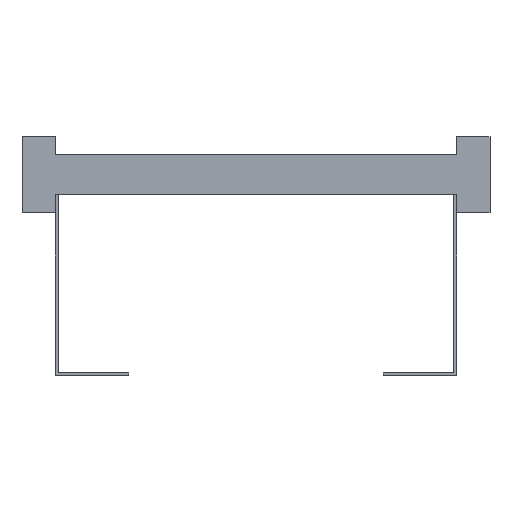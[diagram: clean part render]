
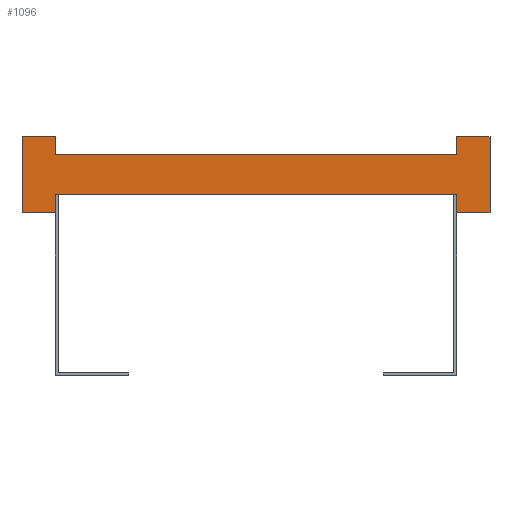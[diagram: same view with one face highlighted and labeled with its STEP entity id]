
A CAD part, front view. The second image highlights one B-rep face of the part: STEP entity #1096.
In plain terms, the highlighted planar face has unit normal (0, -1, 0).
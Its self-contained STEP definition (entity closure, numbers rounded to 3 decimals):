
#113=DIRECTION('',(0.,0.,1.));
#114=VECTOR('',#113,13.5);
#115=CARTESIAN_POINT('',(150.,0.,-28.5));
#116=LINE('',#115,#114);
#117=DIRECTION('',(0.,0.,-1.));
#118=VECTOR('',#117,13.5);
#119=CARTESIAN_POINT('',(-150.,0.,-15.));
#120=LINE('',#119,#118);
#121=DIRECTION('',(-1.,0.,0.));
#122=VECTOR('',#121,25.);
#123=CARTESIAN_POINT('',(-150.,0.,-28.5));
#124=LINE('',#123,#122);
#125=DIRECTION('',(0.,0.,1.));
#126=VECTOR('',#125,57.);
#127=CARTESIAN_POINT('',(-175.,0.,-28.5));
#128=LINE('',#127,#126);
#129=DIRECTION('',(1.,0.,0.));
#130=VECTOR('',#129,25.);
#131=CARTESIAN_POINT('',(-175.,0.,28.5));
#132=LINE('',#131,#130);
#133=DIRECTION('',(0.,0.,-1.));
#134=VECTOR('',#133,13.5);
#135=CARTESIAN_POINT('',(-150.,0.,28.5));
#136=LINE('',#135,#134);
#137=DIRECTION('',(0.,0.,1.));
#138=VECTOR('',#137,13.5);
#139=CARTESIAN_POINT('',(150.,0.,15.));
#140=LINE('',#139,#138);
#141=DIRECTION('',(1.,0.,0.));
#142=VECTOR('',#141,25.);
#143=CARTESIAN_POINT('',(150.,0.,28.5));
#144=LINE('',#143,#142);
#145=DIRECTION('',(0.,0.,-1.));
#146=VECTOR('',#145,57.);
#147=CARTESIAN_POINT('',(175.,0.,28.5));
#148=LINE('',#147,#146);
#149=DIRECTION('',(-1.,0.,0.));
#150=VECTOR('',#149,25.);
#151=CARTESIAN_POINT('',(175.,0.,-28.5));
#152=LINE('',#151,#150);
#817=DIRECTION('',(1.,0.,0.));
#818=VECTOR('',#817,300.);
#819=CARTESIAN_POINT('',(-150.,0.,-15.));
#820=LINE('',#819,#818);
#829=DIRECTION('',(1.,0.,0.));
#830=VECTOR('',#829,300.);
#831=CARTESIAN_POINT('',(-150.,0.,15.));
#832=LINE('',#831,#830);
#833=CARTESIAN_POINT('',(-175.,0.,28.5));
#834=CARTESIAN_POINT('',(-150.,0.,28.5));
#835=VERTEX_POINT('',#833);
#836=VERTEX_POINT('',#834);
#837=CARTESIAN_POINT('',(-150.,0.,-28.5));
#838=CARTESIAN_POINT('',(-175.,0.,-28.5));
#839=VERTEX_POINT('',#837);
#840=VERTEX_POINT('',#838);
#841=CARTESIAN_POINT('',(175.,0.,28.5));
#842=CARTESIAN_POINT('',(175.,0.,-28.5));
#843=VERTEX_POINT('',#841);
#844=VERTEX_POINT('',#842);
#845=CARTESIAN_POINT('',(150.,0.,-28.5));
#846=VERTEX_POINT('',#845);
#847=CARTESIAN_POINT('',(150.,0.,28.5));
#848=VERTEX_POINT('',#847);
#865=CARTESIAN_POINT('',(-150.,0.,-15.));
#867=VERTEX_POINT('',#865);
#869=CARTESIAN_POINT('',(-150.,0.,15.));
#871=VERTEX_POINT('',#869);
#873=CARTESIAN_POINT('',(150.,0.,-15.));
#875=VERTEX_POINT('',#873);
#877=CARTESIAN_POINT('',(150.,0.,15.));
#879=VERTEX_POINT('',#877);
#1065=CARTESIAN_POINT('',(0.,0.,0.));
#1066=DIRECTION('',(0.,1.,0.));
#1067=DIRECTION('',(1.,0.,0.));
#1068=AXIS2_PLACEMENT_3D('',#1065,#1066,#1067);
#1069=PLANE('',#1068);
#1071=ORIENTED_EDGE('',*,*,#1070,.T.);
#1073=ORIENTED_EDGE('',*,*,#1072,.F.);
#1075=ORIENTED_EDGE('',*,*,#1074,.T.);
#1077=ORIENTED_EDGE('',*,*,#1076,.T.);
#1079=ORIENTED_EDGE('',*,*,#1078,.T.);
#1081=ORIENTED_EDGE('',*,*,#1080,.T.);
#1083=ORIENTED_EDGE('',*,*,#1082,.T.);
#1085=ORIENTED_EDGE('',*,*,#1084,.T.);
#1087=ORIENTED_EDGE('',*,*,#1086,.T.);
#1089=ORIENTED_EDGE('',*,*,#1088,.T.);
#1091=ORIENTED_EDGE('',*,*,#1090,.T.);
#1093=ORIENTED_EDGE('',*,*,#1092,.T.);
#1094=EDGE_LOOP('',(#1071,#1073,#1075,#1077,#1079,#1081,#1083,#1085,#1087,#1089,
#1091,#1093));
#1095=FACE_OUTER_BOUND('',#1094,.F.);
#1070=EDGE_CURVE('',#846,#875,#116,.T.);
#1072=EDGE_CURVE('',#867,#875,#820,.T.);
#1074=EDGE_CURVE('',#867,#839,#120,.T.);
#1076=EDGE_CURVE('',#839,#840,#124,.T.);
#1078=EDGE_CURVE('',#840,#835,#128,.T.);
#1080=EDGE_CURVE('',#835,#836,#132,.T.);
#1082=EDGE_CURVE('',#836,#871,#136,.T.);
#1084=EDGE_CURVE('',#871,#879,#832,.T.);
#1086=EDGE_CURVE('',#879,#848,#140,.T.);
#1088=EDGE_CURVE('',#848,#843,#144,.T.);
#1090=EDGE_CURVE('',#843,#844,#148,.T.);
#1092=EDGE_CURVE('',#844,#846,#152,.T.);
#1096=ADVANCED_FACE('',(#1095),#1069,.F.);
